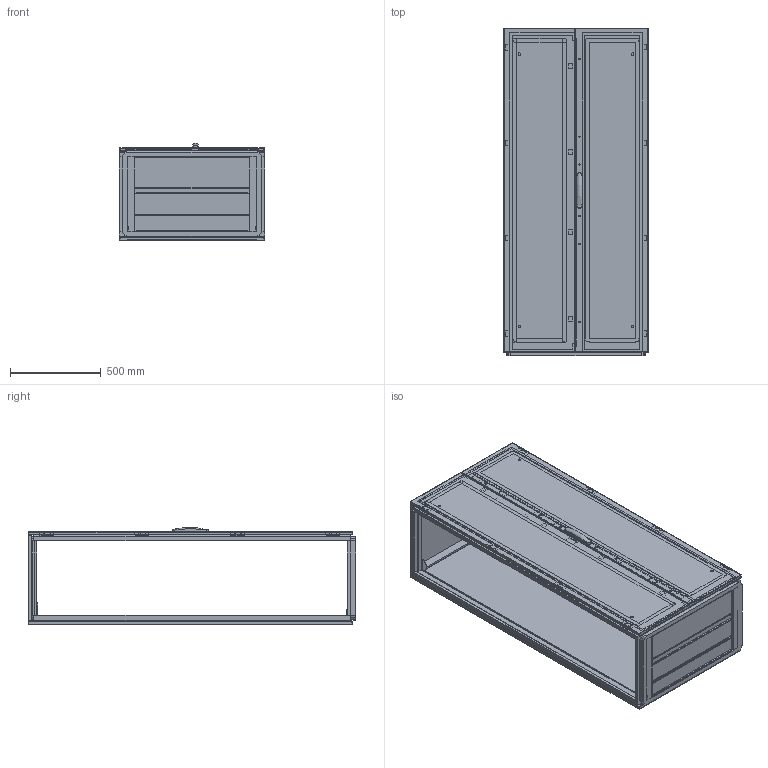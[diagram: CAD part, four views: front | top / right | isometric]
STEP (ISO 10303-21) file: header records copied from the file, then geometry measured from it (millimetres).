
FILE_DESCRIPTION(/* description */ ('STEP AP203'),/* implementation_level */ '2;1');
FILE_NAME(/* name */ 'MCD18085R5(0)',/* time_stamp */ '2024-02-26T16:33:49+01:00',/* author */ ('License CC BY-ND 4.0'),/* organization */ ('CADENAS'),/* preprocessor_version */ 'ST-DEVELOPER v19.3',/* originating_system */ 'PARTsolutions',/* authorisation */ ' ');
FILE_SCHEMA (('CONFIG_CONTROL_DESIGN'));
Length unit declared in the file: millimetre
Products named in the file (24): MCD18085R5(0); MCS18085R5_Frame; CRPK08(0)_Rear Panel Mounting Kit; CRP1808R5(0)_Rear Panel; DNMK02(0)_Hinge Right; DN1804RR5(0)_Right door; LSSDXXXX(0)_Lock; LSSD1800(0)_Espagnolette Top; LSSD1800(0)_Espagnolette Bottom; DNMK02(0)_Hinge Left; DN1804LR5(0)_Left door; LSEL1800(0)_Left Door Espagnolette; DNMK01(0)_Rod catches; CCR085R5(0)_Roof plate; LSSD1800(0)_Lock Catch; LSELXX08X(0)_Left Door Espagnolette; MPA06(0)_Mounting Plate Brackets 1; MP1808(0)_P1; MPA06(0)_Mounting Plate Brackets 2; MPA06(0)_Mounting Plate Brackets 3; MPA06(0)_Mounting Plate Brackets 4; CBPW800D200(0)_Bottom Plate 3; CBP080(0)_Bottom Plate 1; CBP080(0)_Bottom Plate 2
Assembly tree (41 placements, depth 2):
  MCD18085R5(0)
    MCS18085R5_Frame
    CRPK08(0)_Rear Panel Mounting Kit  x8
    CRP1808R5(0)_Rear Panel
    DNMK02(0)_Hinge Right  x4
    DN1804RR5(0)_Right door
    LSSDXXXX(0)_Lock
    LSSD1800(0)_Espagnolette Top
    LSSD1800(0)_Espagnolette Bottom
    DNMK02(0)_Hinge Left  x4
    DN1804LR5(0)_Left door
    LSEL1800(0)_Left Door Espagnolette
    DNMK01(0)_Rod catches  x4
    CCR085R5(0)_Roof plate
    LSSD1800(0)_Lock Catch  x2
    LSELXX08X(0)_Left Door Espagnolette  x2
    MPA06(0)_Mounting Plate Brackets 1
    MP1808(0)_P1
    MPA06(0)_Mounting Plate Brackets 2
    MPA06(0)_Mounting Plate Brackets 3
    MPA06(0)_Mounting Plate Brackets 4
    CBPW800D200(0)_Bottom Plate 3
    CBP080(0)_Bottom Plate 1
    CBP080(0)_Bottom Plate 2
Bounding box: 799 x 1803.5 x 534.85 mm (x, y, z)
Volume: 29993746 mm3; surface area: 13708343.3 mm2
Topology: 41 solids, 41 shells, 2026 faces, 5469 edges, 3607 vertices
Faces by surface type: plane 1768, cylinder 193, cone 62, sphere 2, torus 1
Full cylindrical faces by diameter (mm): 2.55 x2, 5 x26, 5.2 x2, 5.8 x2, 6 x6, 6.5 x2, 7 x6, 7.4 x4, 8 x20, 9 x2, 10 x12, 12.5 x1, 13 x3, 14 x6, 14.12 x1, 15 x4
Entity records: 49397 total; most frequent: CARTESIAN_POINT 8453, ORIENTED_EDGE 8048, DIRECTION 7551, EDGE_CURVE 4024, LINE 3619, VECTOR 3619, VERTEX_POINT 2718, AXIS2_PLACEMENT_3D 1966
